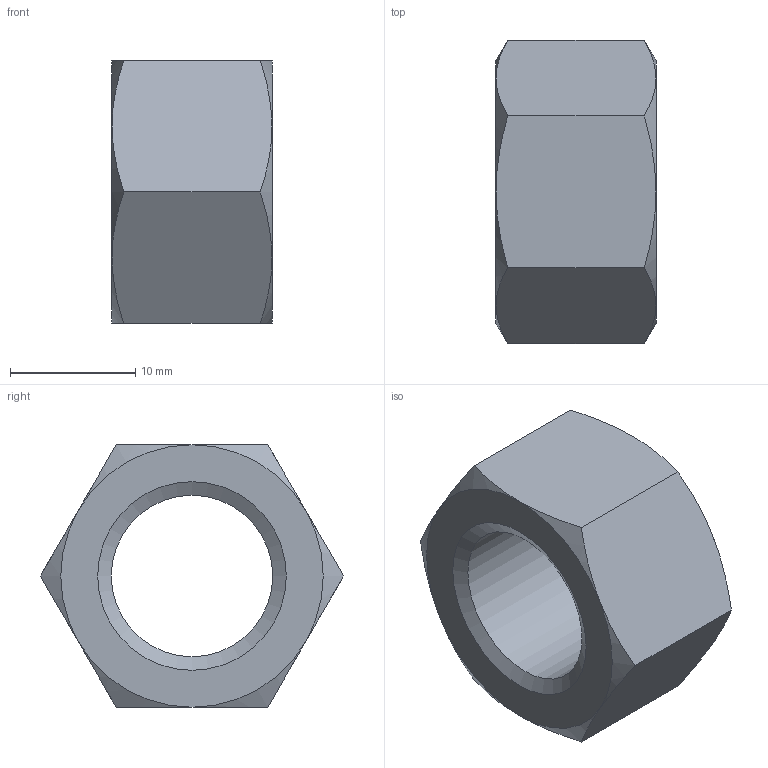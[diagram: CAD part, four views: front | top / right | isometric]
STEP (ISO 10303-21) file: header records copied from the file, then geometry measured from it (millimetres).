
FILE_DESCRIPTION(/* description */ ('6각 너트 및 6각 가는 너트 - 스타일 1'),/* implementation_level */ '2;1');
FILE_NAME(/* name */ '',/* time_stamp */ '2025-07-11T16:53:15+09:00',/* author */ ('jhkim'),/* organization */ (''),/* preprocessor_version */ 'ST-DEVELOPER v20.1',/* originating_system */ 'Autodesk Inventor 2026',/* authorisation */ '');
FILE_SCHEMA (('AUTOMOTIVE_DESIGN { 1 0 10303 214 3 1 1 }'));
Length unit declared in the file: millimetre
Products named in the file (1): 6각 너트 M14x1
Bounding box: 12.8 x 24.25 x 21 mm (x, y, z)
Volume: 3162 mm3; surface area: 1880.5 mm2
Topology: 1 solids, 1 shells, 23 faces, 50 edges, 29 vertices
Faces by surface type: cone 14, plane 8, cylinder 1
Full cylindrical faces by diameter (mm): 12.917 x1
Entity records: 640 total; most frequent: CARTESIAN_POINT 151, ORIENTED_EDGE 100, DIRECTION 91, EDGE_CURVE 50, AXIS2_PLACEMENT_3D 41, VERTEX_POINT 29, EDGE_LOOP 25, FACE_OUTER_BOUND 23
